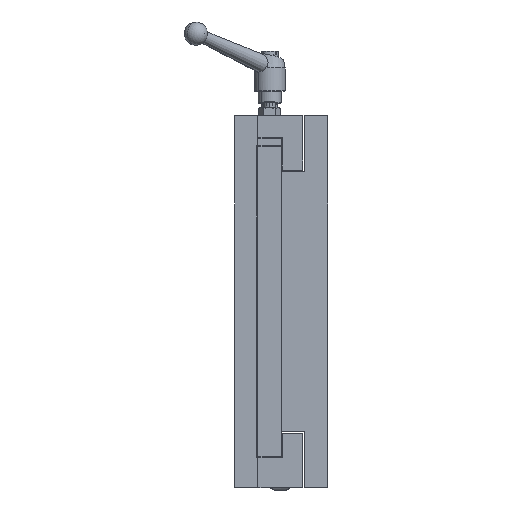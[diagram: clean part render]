
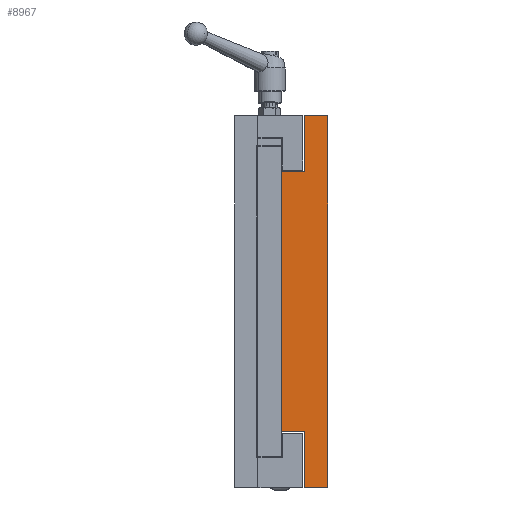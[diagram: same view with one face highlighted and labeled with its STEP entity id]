
A CAD part, left-side view. The second image highlights one B-rep face of the part: STEP entity #8967.
In plain terms, the highlighted planar face has unit normal (-1, 0, 0).
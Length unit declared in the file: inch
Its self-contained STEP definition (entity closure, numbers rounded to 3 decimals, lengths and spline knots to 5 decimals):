
#11 = AXIS2_PLACEMENT_3D ( 'NONE', #1076, #1089, #1091 ) ;
#1071 = PLANE ( 'NONE',  #11 ) ;
#1076 = CARTESIAN_POINT ( 'NONE',  ( 0., 0., 6. ) ) ;
#1084 = FACE_OUTER_BOUND ( 'NONE', #8489, .T. ) ;
#1089 = DIRECTION ( 'NONE',  ( 1., 0., 0. ) ) ;
#1091 = DIRECTION ( 'NONE',  ( 0., 0., -1. ) ) ;
#3343 = CARTESIAN_POINT ( 'NONE',  ( 0., 0.75, 4.1875 ) ) ;
#3345 = CARTESIAN_POINT ( 'NONE',  ( 0., 0.75, 6. ) ) ;
#3347 = CARTESIAN_POINT ( 'NONE',  ( 0., 0.75, -6. ) ) ;
#3352 = CARTESIAN_POINT ( 'NONE',  ( 0., 0.75, -4.1875 ) ) ;
#3357 = CARTESIAN_POINT ( 'NONE',  ( 0., 1.5, 4.1875 ) ) ;
#3359 = CARTESIAN_POINT ( 'NONE',  ( 0., 0., 6. ) ) ;
#3368 = CARTESIAN_POINT ( 'NONE',  ( 0., 1.5, -4.1875 ) ) ;
#4638 = CARTESIAN_POINT ( 'NONE',  ( 0., 0., -6. ) ) ;
#4964 = LINE ( 'NONE', #4974, #6566 ) ;
#4974 = CARTESIAN_POINT ( 'NONE',  ( 0., 1.5, 6. ) ) ;
#4975 = DIRECTION ( 'NONE',  ( 0., 0., 1. ) ) ;
#4987 = LINE ( 'NONE', #5007, #6559 ) ;
#4992 = LINE ( 'NONE', #5013, #6616 ) ;
#5003 = LINE ( 'NONE', #5005, #6556 ) ;
#5004 = LINE ( 'NONE', #5015, #6615 ) ;
#5005 = CARTESIAN_POINT ( 'NONE',  ( 0., 1.5, -4.1875 ) ) ;
#5006 = DIRECTION ( 'NONE',  ( 0., -1., 0. ) ) ;
#5007 = CARTESIAN_POINT ( 'NONE',  ( 0., 0.75, -6. ) ) ;
#5008 = DIRECTION ( 'NONE',  ( 0., 0., -1. ) ) ;
#5009 = LINE ( 'NONE', #5011, #6555 ) ;
#5010 = LINE ( 'NONE', #5017, #6554 ) ;
#5011 = CARTESIAN_POINT ( 'NONE',  ( 0., 1.5, -6. ) ) ;
#5012 = DIRECTION ( 'NONE',  ( 0., 1., 0. ) ) ;
#5013 = CARTESIAN_POINT ( 'NONE',  ( 0., 0., 6. ) ) ;
#5014 = DIRECTION ( 'NONE',  ( 0., 0., -1. ) ) ;
#5015 = CARTESIAN_POINT ( 'NONE',  ( 0., 1.5, 6. ) ) ;
#5016 = DIRECTION ( 'NONE',  ( 0., -1., 0. ) ) ;
#5017 = CARTESIAN_POINT ( 'NONE',  ( 0., 0.75, 6. ) ) ;
#5018 = DIRECTION ( 'NONE',  ( 0., 0., -1. ) ) ;
#5019 = LINE ( 'NONE', #5020, #6552 ) ;
#5020 = CARTESIAN_POINT ( 'NONE',  ( 0., 1.5, 4.1875 ) ) ;
#5021 = DIRECTION ( 'NONE',  ( 0., 1., 0. ) ) ;
#5675 = VERTEX_POINT ( 'NONE', #4638 ) ;
#6552 = VECTOR ( 'NONE', #5021, 39.37008 ) ;
#6554 = VECTOR ( 'NONE', #5018, 39.37008 ) ;
#6555 = VECTOR ( 'NONE', #5012, 39.37008 ) ;
#6556 = VECTOR ( 'NONE', #5006, 39.37008 ) ;
#6559 = VECTOR ( 'NONE', #5008, 39.37008 ) ;
#6566 = VECTOR ( 'NONE', #4975, 39.37008 ) ;
#6615 = VECTOR ( 'NONE', #5016, 39.37008 ) ;
#6616 = VECTOR ( 'NONE', #5014, 39.37008 ) ;
#6630 = ORIENTED_EDGE ( 'NONE', *, *, #7908, .T. ) ;
#6631 = ORIENTED_EDGE ( 'NONE', *, *, #7909, .T. ) ;
#6632 = ORIENTED_EDGE ( 'NONE', *, *, #7910, .F. ) ;
#6633 = ORIENTED_EDGE ( 'NONE', *, *, #7911, .F. ) ;
#6634 = ORIENTED_EDGE ( 'NONE', *, *, #7912, .F. ) ;
#6635 = ORIENTED_EDGE ( 'NONE', *, *, #7913, .T. ) ;
#6636 = ORIENTED_EDGE ( 'NONE', *, *, #7914, .T. ) ;
#6637 = ORIENTED_EDGE ( 'NONE', *, *, #7898, .F. ) ;
#7898 = EDGE_CURVE ( 'NONE', #8289, #8278, #4964, .T. ) ;
#7908 = EDGE_CURVE ( 'NONE', #8289, #8273, #5003, .T. ) ;
#7909 = EDGE_CURVE ( 'NONE', #8273, #8268, #4987, .T. ) ;
#7910 = EDGE_CURVE ( 'NONE', #5675, #8268, #5009, .T. ) ;
#7911 = EDGE_CURVE ( 'NONE', #8280, #5675, #4992, .T. ) ;
#7912 = EDGE_CURVE ( 'NONE', #8266, #8280, #5004, .T. ) ;
#7913 = EDGE_CURVE ( 'NONE', #8266, #8264, #5010, .T. ) ;
#7914 = EDGE_CURVE ( 'NONE', #8264, #8278, #5019, .T. ) ;
#8264 = VERTEX_POINT ( 'NONE', #3343 ) ;
#8266 = VERTEX_POINT ( 'NONE', #3345 ) ;
#8268 = VERTEX_POINT ( 'NONE', #3347 ) ;
#8273 = VERTEX_POINT ( 'NONE', #3352 ) ;
#8278 = VERTEX_POINT ( 'NONE', #3357 ) ;
#8280 = VERTEX_POINT ( 'NONE', #3359 ) ;
#8289 = VERTEX_POINT ( 'NONE', #3368 ) ;
#8489 = EDGE_LOOP ( 'NONE', ( #6630, #6631, #6632, #6633, #6634, #6635, #6636, #6637 ) ) ;
#8967 = ADVANCED_FACE ( 'NONE', ( #1084 ), #1071, .F. ) ;
